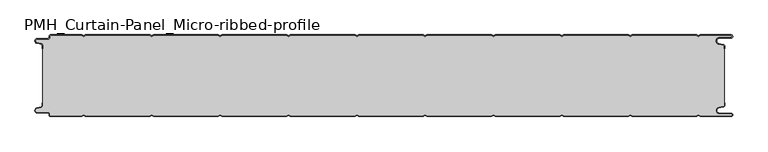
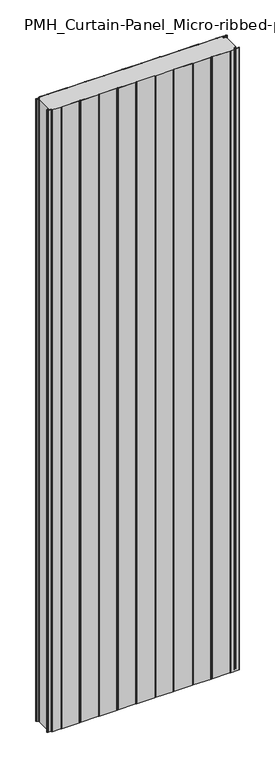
"""IFC4 building model written with IfcOpenShell, lengths in millimetres: plate geometry, PMH_Curtain-Panel_Micro-ribbed-profile : ACH_PMH_Stone-wool-Panel_120M."""

from ifc_helpers import new_model, si_unit, point, frame_2d, origin, origin_with_axes, place, context, project, spatial, polyline, circle_curve, trimmed, segment, composite_curve, outline, extrude, source, transform, mapped, element, save


def pmh_curtain_panel_micro_ribbed_profile_d289c41b(model_context):
    return source(origin(), model_context, "Body", "SweptSolid", [
        extrude(outline(composite_curve([segment(trimmed(circle_curve(frame_2d((-502.0, -15.878557)), 2.0), [point((-500.0, -15.878557))], [point((-501.5500978, -13.9298169))], True, "CARTESIAN"), True, "CONTINUOUS"), segment(polyline([(-501.5500978, -13.9298169), (-507.7098239, -12.507732)]), True, "CONTINUOUS"), segment(trimmed(circle_curve(frame_2d((-506.9, -9.0)), 3.6), [point((-507.7098239, -12.507732))], [point((-506.9, -5.4))], False, "CARTESIAN"), True, "CONTINUOUS"), segment(polyline([(-506.9, -5.4), (-491.4, -5.4)]), True, "CONTINUOUS"), segment(trimmed(circle_curve(frame_2d((-491.4, -3.4)), 2.0), [point((-491.4, -5.4))], [point((-489.4, -3.4))], True, "CARTESIAN"), True, "CONTINUOUS"), segment(polyline([(-489.4, -3.4), (-489.4, -2.0)]), True, "CONTINUOUS"), segment(trimmed(circle_curve(frame_2d((-487.4, -2.0)), 2.0), [point((-489.4, -2.0))], [point((-487.4, 0.0))], False, "CARTESIAN"), True, "CONTINUOUS"), segment(polyline([(-487.4, 0.0), (-442.0999995, 0.0), (-439.4, -1.5588455), (-436.7000005, 0.0), (-342.0999995, 0.0), (-339.4, -1.5588455), (-336.7000005, 0.0), (-242.0999995, 0.0), (-239.4, -1.5588455), (-236.7000005, 0.0), (-142.0999995, 0.0), (-139.4, -1.5588455), (-136.7000005, 0.0), (-42.0999995, 0.0), (-39.4, -1.5588455), (-36.7000005, 0.0), (57.9000005, 0.0), (60.6, -1.5588455), (63.2999995, 0.0), (157.9000005, 0.0), (160.6, -1.5588455), (163.2999995, 0.0), (257.9000005, 0.0), (260.6, -1.5588455), (263.2999995, 0.0), (357.9000005, 0.0), (360.6, -1.5588455), (363.2999995, 0.0), (457.9000005, 0.0), (460.6, -1.5588455), (463.2999995, 0.0), (508.1, 0.0)]), True, "CONTINUOUS"), segment(trimmed(circle_curve(frame_2d((508.1, -2.5)), 2.5), [point((508.1, 0.0))], [point((508.1, -5.0))], False, "CARTESIAN"), True, "CONTINUOUS"), segment(polyline([(508.1, -5.0), (491.1, -5.0)]), True, "CONTINUOUS"), segment(trimmed(circle_curve(frame_2d((491.1, -9.0)), 4.0), [point((491.1, -5.0))], [point((490.405407, -12.939231))], True, "CARTESIAN"), True, "CONTINUOUS"), segment(polyline([(490.405407, -12.939231), (496.8514855, -14.0758491)]), True, "CONTINUOUS"), segment(trimmed(circle_curve(frame_2d((496.4, -16.6363492)), 2.6), [point((496.8514855, -14.0758491))], [point((499.0, -16.6363492))], False, "CARTESIAN"), True, "CONTINUOUS"), segment(polyline([(499.0, -16.6363492), (499.0, -20.0), (498.2, -20.0), (498.2, -16.6363492)]), True, "CONTINUOUS"), segment(trimmed(circle_curve(frame_2d((496.4, -16.6363492)), 1.8), [point((498.2, -16.6363492))], [point((496.7125669, -14.8636953))], True, "CARTESIAN"), True, "CONTINUOUS"), segment(polyline([(496.7125669, -14.8636953), (490.2664884, -13.7270772)]), True, "CONTINUOUS"), segment(trimmed(circle_curve(frame_2d((491.1, -9.0)), 4.8), [point((490.2664884, -13.7270772))], [point((491.1, -4.2))], False, "CARTESIAN"), True, "CONTINUOUS"), segment(polyline([(491.1, -4.2), (508.1, -4.2)]), True, "CONTINUOUS"), segment(trimmed(circle_curve(frame_2d((508.1, -2.5)), 1.7), [point((508.1, -4.2))], [point((508.1, -0.8))], True, "CARTESIAN"), True, "CONTINUOUS"), segment(polyline([(508.1, -0.8), (463.5143588, -0.8), (460.6, -2.482606), (457.6856412, -0.8), (363.5143588, -0.8), (360.6, -2.482606), (357.6856412, -0.8), (263.5143588, -0.8), (260.6, -2.482606), (257.6856412, -0.8), (163.5143588, -0.8), (160.6, -2.482606), (157.6856412, -0.8), (63.5143588, -0.8), (60.6, -2.482606), (57.6856412, -0.8), (-36.4856412, -0.8), (-39.4, -2.482606), (-42.3143588, -0.8), (-136.4856412, -0.8), (-139.4, -2.482606), (-142.3143588, -0.8), (-236.4856412, -0.8), (-239.4, -2.482606), (-242.3143588, -0.8), (-336.4856412, -0.8), (-339.4, -2.482606), (-342.3143588, -0.8), (-436.4856412, -0.8), (-439.4, -2.482606), (-442.3143588, -0.8), (-487.4, -0.8)]), True, "CONTINUOUS"), segment(trimmed(circle_curve(frame_2d((-487.4, -2.0)), 1.2), [point((-487.4, -0.8))], [point((-488.6, -2.0))], True, "CARTESIAN"), True, "CONTINUOUS"), segment(polyline([(-488.6, -2.0), (-488.6, -3.4)]), True, "CONTINUOUS"), segment(trimmed(circle_curve(frame_2d((-491.4, -3.4)), 2.8), [point((-488.6, -3.4))], [point((-491.4, -6.2))], False, "CARTESIAN"), True, "CONTINUOUS"), segment(polyline([(-491.4, -6.2), (-506.9, -6.2)]), True, "CONTINUOUS"), segment(trimmed(circle_curve(frame_2d((-506.9, -9.0)), 2.8), [point((-506.9, -6.2))], [point((-507.529863, -11.7282362))], True, "CARTESIAN"), True, "CONTINUOUS"), segment(polyline([(-507.529863, -11.7282362), (-501.370137, -13.150321)]), True, "CONTINUOUS"), segment(trimmed(circle_curve(frame_2d((-502.0, -15.878557)), 2.8), [point((-501.370137, -13.150321))], [point((-499.2, -15.878557))], False, "CARTESIAN"), True, "CONTINUOUS"), segment(polyline([(-499.2, -15.878557), (-499.2, -20.0), (-500.0, -20.0), (-500.0, -15.878557)]), True, "CONTINUOUS")], self_intersect=False)), origin_with_axes(), (0.0, 0.0, 1.0), 3500.0),
        extrude(outline(composite_curve([segment(polyline([(-499.2, -104.1214426), (-499.2, -15.8785573)]), True, "CONTINUOUS"), segment(trimmed(circle_curve(frame_2d((-502.0, -15.8785573)), 2.8), [point((-499.2, -15.8785573))], [point((-501.370137, -13.1503212))], True, "CARTESIAN"), True, "CONTINUOUS"), segment(polyline([(-501.370137, -13.1503212), (-507.5298631, -11.7282362)]), True, "CONTINUOUS"), segment(trimmed(circle_curve(frame_2d((-506.9, -9.0)), 2.8), [point((-507.5298631, -11.7282362))], [point((-506.9, -6.2))], False, "CARTESIAN"), True, "CONTINUOUS"), segment(polyline([(-506.9, -6.2), (-491.4000001, -6.2)]), True, "CONTINUOUS"), segment(trimmed(circle_curve(frame_2d((-491.4000001, -3.4)), 2.8), [point((-491.4000001, -6.2))], [point((-488.6000001, -3.4))], True, "CARTESIAN"), True, "CONTINUOUS"), segment(polyline([(-488.6000001, -3.4), (-488.6000001, -2.0)]), True, "CONTINUOUS"), segment(trimmed(circle_curve(frame_2d((-487.4000001, -2.0)), 1.2), [point((-488.6000001, -2.0))], [point((-487.4000001, -0.8))], False, "CARTESIAN"), True, "CONTINUOUS"), segment(polyline([(-487.4000001, -0.8), (-442.3143589, -0.8), (-439.4000001, -2.482606), (-436.4856412, -0.8), (-342.3143589, -0.8), (-339.4000001, -2.482606), (-336.4856412, -0.8), (-242.3143589, -0.8), (-239.4000001, -2.482606), (-236.4856412, -0.8), (-142.3143589, -0.8), (-139.4000001, -2.482606), (-136.4856412, -0.8), (-42.3143589, -0.8), (-39.4000001, -2.482606), (-36.4856412, -0.8), (57.6856411, -0.8), (60.5999999, -2.482606), (63.5143588, -0.8), (157.6856411, -0.8), (160.5999999, -2.482606), (163.5143588, -0.8), (257.6856411, -0.8), (260.5999999, -2.482606), (263.5143588, -0.8), (357.6856411, -0.8), (360.5999999, -2.482606), (363.5143588, -0.8), (457.6856411, -0.8), (460.5999999, -2.482606), (463.5143588, -0.8), (508.0999999, -0.8)]), True, "CONTINUOUS"), segment(trimmed(circle_curve(frame_2d((508.0999999, -2.5)), 1.7), [point((508.0999999, -0.8))], [point((508.0999999, -4.2))], False, "CARTESIAN"), True, "CONTINUOUS"), segment(polyline([(508.0999999, -4.2), (491.0999999, -4.2)]), True, "CONTINUOUS"), segment(trimmed(circle_curve(frame_2d((491.0999999, -9.0)), 4.8), [point((491.0999999, -4.2))], [point((490.2664883, -13.7270771))], True, "CARTESIAN"), True, "CONTINUOUS"), segment(polyline([(490.2664883, -13.7270771), (496.7125668, -14.8636953)]), True, "CONTINUOUS"), segment(trimmed(circle_curve(frame_2d((496.3999999, -16.6363492)), 1.8), [point((496.7125668, -14.8636953))], [point((498.1999999, -16.6363492))], False, "CARTESIAN"), True, "CONTINUOUS"), segment(polyline([(498.1999999, -16.6363492), (498.1999999, -103.3636508)]), True, "CONTINUOUS"), segment(trimmed(circle_curve(frame_2d((496.3999999, -103.3636508)), 1.8), [point((498.1999999, -103.3636508))], [point((496.7125668, -105.1363047))], False, "CARTESIAN"), True, "CONTINUOUS"), segment(polyline([(496.7125668, -105.1363047), (490.2664883, -106.2729229)]), True, "CONTINUOUS"), segment(trimmed(circle_curve(frame_2d((491.0999999, -111.0)), 4.8), [point((490.2664883, -106.2729229))], [point((491.0999999, -115.8))], True, "CARTESIAN"), True, "CONTINUOUS"), segment(polyline([(491.0999999, -115.8), (508.0999999, -115.8)]), True, "CONTINUOUS"), segment(trimmed(circle_curve(frame_2d((508.0999999, -117.5)), 1.7), [point((508.0999999, -115.8))], [point((508.0999999, -119.2))], False, "CARTESIAN"), True, "CONTINUOUS"), segment(polyline([(508.0999999, -119.2), (463.5143588, -119.2), (460.5999999, -117.517394), (457.6856411, -119.2), (363.5143588, -119.2), (360.5999999, -117.517394), (357.6856411, -119.2), (263.5143588, -119.2), (260.5999999, -117.517394), (257.6856411, -119.2), (163.5143588, -119.2), (160.5999999, -117.517394), (157.6856411, -119.2), (63.5143588, -119.2), (60.5999999, -117.517394), (57.6856411, -119.2), (-36.4856412, -119.2), (-39.4000001, -117.517394), (-42.3143589, -119.2), (-136.4856412, -119.2), (-139.4000001, -117.517394), (-142.3143589, -119.2), (-236.4856412, -119.2), (-239.4000001, -117.517394), (-242.3143589, -119.2), (-336.4856412, -119.2), (-339.4000001, -117.517394), (-342.3143589, -119.2), (-436.4856412, -119.2), (-439.4000001, -117.517394), (-442.3143589, -119.2), (-487.4000001, -119.2)]), True, "CONTINUOUS"), segment(trimmed(circle_curve(frame_2d((-487.4000001, -118.0)), 1.2), [point((-487.4000001, -119.2))], [point((-488.6000001, -118.0))], False, "CARTESIAN"), True, "CONTINUOUS"), segment(polyline([(-488.6000001, -118.0), (-488.6000001, -116.6)]), True, "CONTINUOUS"), segment(trimmed(circle_curve(frame_2d((-491.4000001, -116.6)), 2.8), [point((-488.6000001, -116.6))], [point((-491.4000001, -113.8))], True, "CARTESIAN"), True, "CONTINUOUS"), segment(polyline([(-491.4000001, -113.8), (-506.9, -113.8)]), True, "CONTINUOUS"), segment(trimmed(circle_curve(frame_2d((-506.9, -111.0)), 2.8), [point((-506.9, -113.8))], [point((-507.5298631, -108.2717638))], False, "CARTESIAN"), True, "CONTINUOUS"), segment(polyline([(-507.5298631, -108.2717638), (-501.370137, -106.8496788)]), True, "CONTINUOUS"), segment(trimmed(circle_curve(frame_2d((-502.0, -104.1214426)), 2.8), [point((-501.370137, -106.8496788))], [point((-499.2, -104.1214426))], True, "CARTESIAN"), True, "CONTINUOUS")], self_intersect=False)), origin_with_axes(), (0.0, 0.0, 1.0), 3500.0),
        extrude(outline(composite_curve([segment(polyline([(-500.0, -104.121443), (-500.0, -100.0), (-499.2, -100.0), (-499.2, -104.121443)]), True, "CONTINUOUS"), segment(trimmed(circle_curve(frame_2d((-502.0, -104.121443)), 2.8), [point((-499.2, -104.121443))], [point((-501.370137, -106.8496792))], False, "CARTESIAN"), True, "CONTINUOUS"), segment(polyline([(-501.370137, -106.8496792), (-507.529863, -108.271764)]), True, "CONTINUOUS"), segment(trimmed(circle_curve(frame_2d((-506.9, -111.0)), 2.8), [point((-507.529863, -108.271764))], [point((-506.9, -113.8))], True, "CARTESIAN"), True, "CONTINUOUS"), segment(polyline([(-506.9, -113.8), (-491.4, -113.8)]), True, "CONTINUOUS"), segment(trimmed(circle_curve(frame_2d((-491.4, -116.6)), 2.8), [point((-491.4, -113.8))], [point((-488.6, -116.6))], False, "CARTESIAN"), True, "CONTINUOUS"), segment(polyline([(-488.6, -116.6), (-488.6, -118.0)]), True, "CONTINUOUS"), segment(trimmed(circle_curve(frame_2d((-487.4, -118.0)), 1.2), [point((-488.6, -118.0))], [point((-487.4, -119.2))], True, "CARTESIAN"), True, "CONTINUOUS"), segment(polyline([(-487.4, -119.2), (-442.3143588, -119.2), (-439.4, -117.517394), (-436.4856412, -119.2), (-342.3143588, -119.2), (-339.4, -117.517394), (-336.4856412, -119.2), (-242.3143588, -119.2), (-239.4, -117.517394), (-236.4856412, -119.2), (-142.3143588, -119.2), (-139.4, -117.517394), (-136.4856412, -119.2), (-42.3143588, -119.2), (-39.4, -117.517394), (-36.4856412, -119.2), (57.6856412, -119.2), (60.6, -117.517394), (63.5143588, -119.2), (157.6856412, -119.2), (160.6, -117.517394), (163.5143588, -119.2), (257.6856412, -119.2), (260.6, -117.517394), (263.5143588, -119.2), (357.6856412, -119.2), (360.6, -117.517394), (363.5143588, -119.2), (457.6856412, -119.2), (460.6, -117.517394), (463.5143588, -119.2), (508.1, -119.2)]), True, "CONTINUOUS"), segment(trimmed(circle_curve(frame_2d((508.1, -117.5)), 1.7), [point((508.1, -119.2))], [point((508.1, -115.8))], True, "CARTESIAN"), True, "CONTINUOUS"), segment(polyline([(508.1, -115.8), (491.1, -115.8)]), True, "CONTINUOUS"), segment(trimmed(circle_curve(frame_2d((491.1, -111.0)), 4.8), [point((491.1, -115.8))], [point((490.2664884, -106.2729229))], False, "CARTESIAN"), True, "CONTINUOUS"), segment(polyline([(490.2664884, -106.2729229), (496.7125669, -105.1363047)]), True, "CONTINUOUS"), segment(trimmed(circle_curve(frame_2d((496.4, -103.3636508)), 1.8), [point((496.7125669, -105.1363047))], [point((498.2, -103.3636508))], True, "CARTESIAN"), True, "CONTINUOUS"), segment(polyline([(498.2, -103.3636508), (498.2, -100.0), (499.0, -100.0), (499.0, -103.3636508)]), True, "CONTINUOUS"), segment(trimmed(circle_curve(frame_2d((496.4, -103.3636508)), 2.6), [point((499.0, -103.3636508))], [point((496.8514855, -105.9241509))], False, "CARTESIAN"), True, "CONTINUOUS"), segment(polyline([(496.8514855, -105.9241509), (490.405407, -107.060769)]), True, "CONTINUOUS"), segment(trimmed(circle_curve(frame_2d((491.1, -111.0)), 4.0), [point((490.405407, -107.060769))], [point((491.1, -115.0))], True, "CARTESIAN"), True, "CONTINUOUS"), segment(polyline([(491.1, -115.0), (508.1, -115.0)]), True, "CONTINUOUS"), segment(trimmed(circle_curve(frame_2d((508.1, -117.5)), 2.5), [point((508.1, -115.0))], [point((508.1, -120.0))], False, "CARTESIAN"), True, "CONTINUOUS"), segment(polyline([(508.1, -120.0), (463.2999995, -120.0), (460.6, -118.4411545), (457.9000005, -120.0), (363.2999995, -120.0), (360.6, -118.4411545), (357.9000005, -120.0), (263.2999995, -120.0), (260.6, -118.4411545), (257.9000005, -120.0), (163.2999995, -120.0), (160.6, -118.4411545), (157.9000005, -120.0), (63.2999995, -120.0), (60.6, -118.4411545), (57.9000005, -120.0), (-36.7000005, -120.0), (-39.4, -118.4411545), (-42.0999995, -120.0), (-136.7000005, -120.0), (-139.4, -118.4411545), (-142.0999995, -120.0), (-236.7000005, -120.0), (-239.4, -118.4411545), (-242.0999995, -120.0), (-336.7000005, -120.0), (-339.4, -118.4411545), (-342.0999995, -120.0), (-436.7000005, -120.0), (-439.4, -118.4411545), (-442.0999995, -120.0), (-487.4, -120.0)]), True, "CONTINUOUS"), segment(trimmed(circle_curve(frame_2d((-487.4, -118.0)), 2.0), [point((-487.4, -120.0))], [point((-489.4, -118.0))], False, "CARTESIAN"), True, "CONTINUOUS"), segment(polyline([(-489.4, -118.0), (-489.4, -116.6)]), True, "CONTINUOUS"), segment(trimmed(circle_curve(frame_2d((-491.4, -116.6)), 2.0), [point((-489.4, -116.6))], [point((-491.4, -114.6))], True, "CARTESIAN"), True, "CONTINUOUS"), segment(polyline([(-491.4, -114.6), (-506.9, -114.6)]), True, "CONTINUOUS"), segment(trimmed(circle_curve(frame_2d((-506.9, -111.0)), 3.6), [point((-506.9, -114.6))], [point((-507.7098239, -107.4922678))], False, "CARTESIAN"), True, "CONTINUOUS"), segment(polyline([(-507.7098239, -107.4922678), (-501.5500979, -106.070183)]), True, "CONTINUOUS"), segment(trimmed(circle_curve(frame_2d((-502.0, -104.121443)), 2.0), [point((-501.5500979, -106.070183))], [point((-500.0, -104.121443))], True, "CARTESIAN"), True, "CONTINUOUS")], self_intersect=False)), origin_with_axes(), (0.0, 0.0, 1.0), 3500.0),
    ])


if __name__ == "__main__":
    model = new_model("IFC4")
    model_context = context("Model", 3, world=origin())
    ifc_project = project(units=[si_unit("LENGTHUNIT", "METRE", prefix="MILLI")], contexts=[model_context])
    site = spatial("IfcSite", under=ifc_project)
    building = spatial("IfcBuilding", under=site)
    placement = place(None, origin())
    pmh_curtain_panel_micro_ribbed_profile_shape = pmh_curtain_panel_micro_ribbed_profile_d289c41b(model_context)
    element("IfcPlate", 1, ObjectType="PMH_Curtain-Panel_Micro-ribbed-profile : ACH_PMH_Stone-wool-Panel_120M", at=placement, inside=building, context=model_context, shape_type="MappedRepresentation", body=[
        mapped(pmh_curtain_panel_micro_ribbed_profile_shape, transform((0.0, 0.0, 0.0), x_axis=(1.0, 0.0, 0.0), y_axis=(0.0, 1.0, 0.0), z_axis=(0.0, 0.0, 1.0))),
    ])
    save(model, "model.ifc")
